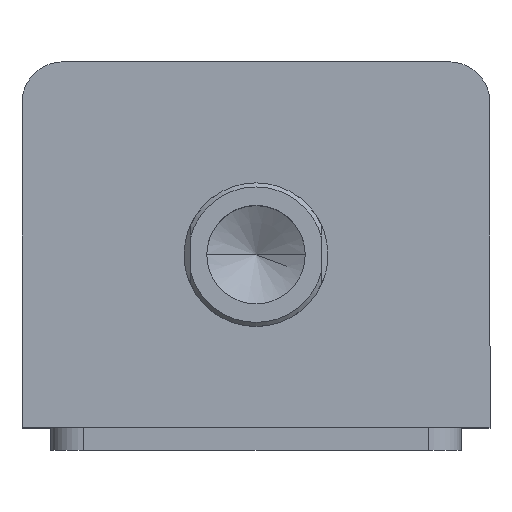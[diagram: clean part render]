
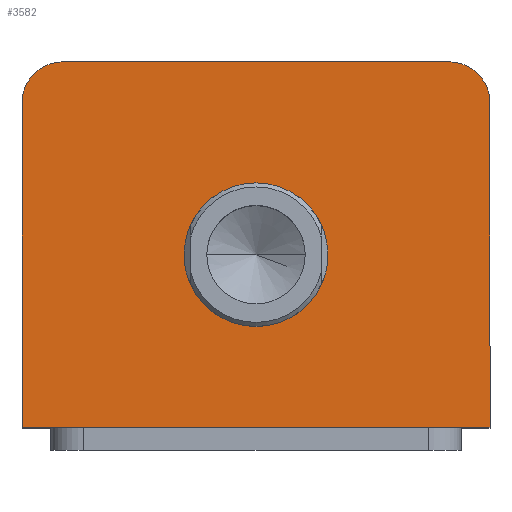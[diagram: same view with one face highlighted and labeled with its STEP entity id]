
A CAD part, top view. The second image highlights one B-rep face of the part: STEP entity #3582.
In plain terms, the highlighted planar face has unit normal (0, 0, 1).
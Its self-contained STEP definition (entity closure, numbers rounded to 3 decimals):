
#73 = CARTESIAN_POINT ( 'NONE',  ( 17.5, -2.5, 117. ) ) ;
#75 = CARTESIAN_POINT ( 'NONE',  ( -57., -44.5, 117. ) ) ;
#79 = CARTESIAN_POINT ( 'NONE',  ( 57., -44.5, 117. ) ) ;
#92 = CARTESIAN_POINT ( 'NONE',  ( 47., 44.5, 117. ) ) ;
#105 = CARTESIAN_POINT ( 'NONE',  ( 47., 34.5, 117. ) ) ;
#106 = DIRECTION ( 'NONE',  ( 0., 0., 1. ) ) ;
#107 = DIRECTION ( 'NONE',  ( 1., 0., 0. ) ) ;
#132 = CARTESIAN_POINT ( 'NONE',  ( -47., 34.5, 117. ) ) ;
#133 = DIRECTION ( 'NONE',  ( 0., 0., 1. ) ) ;
#134 = DIRECTION ( 'NONE',  ( 1., 0., 0. ) ) ;
#142 = CARTESIAN_POINT ( 'NONE',  ( -57., 44.5, 117. ) ) ;
#143 = DIRECTION ( 'NONE',  ( 0., -1., 0. ) ) ;
#238 = LINE ( 'NONE', #1446, #241 ) ;
#241 = VECTOR ( 'NONE', #1447, 1000. ) ;
#245 = CIRCLE ( 'NONE', #3003, 10. ) ;
#258 = CIRCLE ( 'NONE', #2920, 10. ) ;
#264 = LINE ( 'NONE', #142, #267 ) ;
#267 = VECTOR ( 'NONE', #143, 1000. ) ;
#409 = CARTESIAN_POINT ( 'NONE',  ( -17.5, -2.5, 117. ) ) ;
#1008 = PLANE ( 'NONE',  #2995 ) ;
#1010 = CARTESIAN_POINT ( 'NONE',  ( 0., 0., 117. ) ) ;
#1015 = DIRECTION ( 'NONE',  ( 0., 0., 1. ) ) ;
#1016 = DIRECTION ( 'NONE',  ( 1., 0., 0. ) ) ;
#1119 = FACE_BOUND ( 'NONE', #1339, .T. ) ;
#1127 = FACE_OUTER_BOUND ( 'NONE', #1342, .T. ) ;
#1332 = VERTEX_POINT ( 'NONE', #409 ) ;
#1339 = EDGE_LOOP ( 'NONE', ( #2217, #2218 ) ) ;
#1342 = EDGE_LOOP ( 'NONE', ( #2219, #2220, #2221, #2222, #2223, #2224 ) ) ;
#1352 = CARTESIAN_POINT ( 'NONE',  ( 0., -2.5, 117. ) ) ;
#1353 = DIRECTION ( 'NONE',  ( 0., 0., 1. ) ) ;
#1354 = DIRECTION ( 'NONE',  ( 1., 0., 0. ) ) ;
#1362 = CARTESIAN_POINT ( 'NONE',  ( -57., -44.5, 117. ) ) ;
#1371 = DIRECTION ( 'NONE',  ( 1., 0., 0. ) ) ;
#1407 = CARTESIAN_POINT ( 'NONE',  ( -57., 44.5, 117. ) ) ;
#1408 = DIRECTION ( 'NONE',  ( -1., 0., 0. ) ) ;
#1446 = CARTESIAN_POINT ( 'NONE',  ( 57., 44.5, 117. ) ) ;
#1447 = DIRECTION ( 'NONE',  ( 0., 1., 0. ) ) ;
#1459 = CARTESIAN_POINT ( 'NONE',  ( -47., 44.5, 117. ) ) ;
#1478 = CARTESIAN_POINT ( 'NONE',  ( 57., 34.5, 117. ) ) ;
#1481 = CARTESIAN_POINT ( 'NONE',  ( -57., 34.5, 117. ) ) ;
#1778 = CARTESIAN_POINT ( 'NONE',  ( 0., -2.5, 117. ) ) ;
#1779 = DIRECTION ( 'NONE',  ( 0., 0., 1. ) ) ;
#1780 = DIRECTION ( 'NONE',  ( 1., 0., 0. ) ) ;
#2217 = ORIENTED_EDGE ( 'NONE', *, *, #3370, .F. ) ;
#2218 = ORIENTED_EDGE ( 'NONE', *, *, #3368, .F. ) ;
#2219 = ORIENTED_EDGE ( 'NONE', *, *, #3393, .T. ) ;
#2220 = ORIENTED_EDGE ( 'NONE', *, *, #3430, .T. ) ;
#2221 = ORIENTED_EDGE ( 'NONE', *, *, #3434, .T. ) ;
#2222 = ORIENTED_EDGE ( 'NONE', *, *, #3377, .T. ) ;
#2223 = ORIENTED_EDGE ( 'NONE', *, *, #3413, .T. ) ;
#2224 = ORIENTED_EDGE ( 'NONE', *, *, #3421, .T. ) ;
#2408 = CIRCLE ( 'NONE', #2861, 17.5 ) ;
#2411 = CIRCLE ( 'NONE', #2985, 17.5 ) ;
#2417 = LINE ( 'NONE', #1362, #2424 ) ;
#2424 = VECTOR ( 'NONE', #1371, 1000. ) ;
#2449 = LINE ( 'NONE', #1407, #2452 ) ;
#2452 = VECTOR ( 'NONE', #1408, 1000. ) ;
#2807 = VERTEX_POINT ( 'NONE', #73 ) ;
#2809 = VERTEX_POINT ( 'NONE', #75 ) ;
#2813 = VERTEX_POINT ( 'NONE', #79 ) ;
#2827 = VERTEX_POINT ( 'NONE', #92 ) ;
#2830 = VERTEX_POINT ( 'NONE', #1459 ) ;
#2849 = VERTEX_POINT ( 'NONE', #1478 ) ;
#2852 = VERTEX_POINT ( 'NONE', #1481 ) ;
#2861 = AXIS2_PLACEMENT_3D ( 'NONE', #1778, #1779, #1780 ) ;
#2920 = AXIS2_PLACEMENT_3D ( 'NONE', #132, #133, #134 ) ;
#2985 = AXIS2_PLACEMENT_3D ( 'NONE', #1352, #1353, #1354 ) ;
#2995 = AXIS2_PLACEMENT_3D ( 'NONE', #1010, #1015, #1016 ) ;
#3003 = AXIS2_PLACEMENT_3D ( 'NONE', #105, #106, #107 ) ;
#3368 = EDGE_CURVE ( 'NONE', #1332, #2807, #2408, .T. ) ;
#3370 = EDGE_CURVE ( 'NONE', #2807, #1332, #2411, .T. ) ;
#3377 = EDGE_CURVE ( 'NONE', #2809, #2813, #2417, .T. ) ;
#3393 = EDGE_CURVE ( 'NONE', #2827, #2830, #2449, .T. ) ;
#3413 = EDGE_CURVE ( 'NONE', #2813, #2849, #238, .T. ) ;
#3421 = EDGE_CURVE ( 'NONE', #2849, #2827, #245, .T. ) ;
#3430 = EDGE_CURVE ( 'NONE', #2830, #2852, #258, .T. ) ;
#3434 = EDGE_CURVE ( 'NONE', #2852, #2809, #264, .T. ) ;
#3582 = ADVANCED_FACE ( 'NONE', ( #1119, #1127 ), #1008, .T. ) ;
